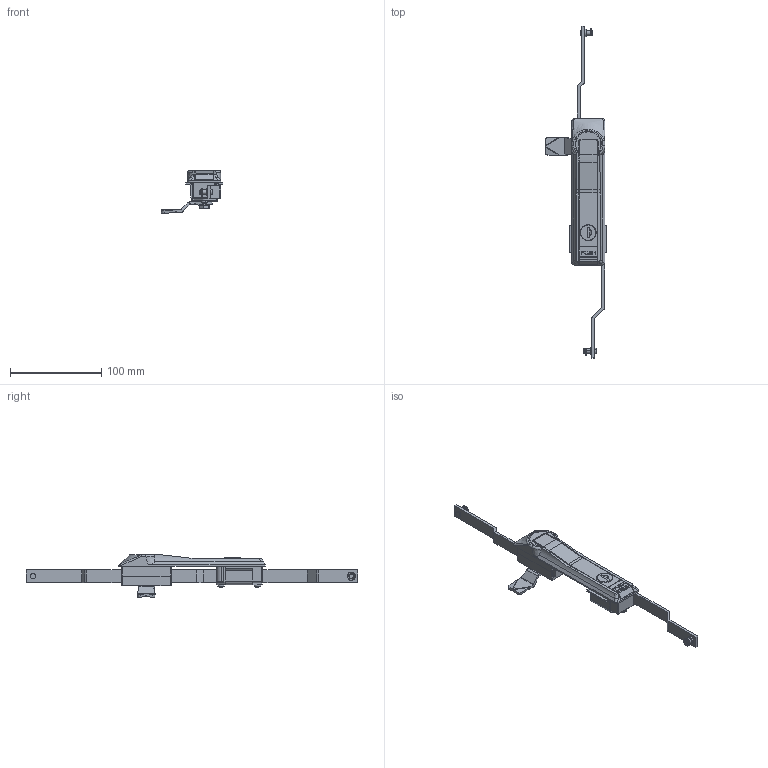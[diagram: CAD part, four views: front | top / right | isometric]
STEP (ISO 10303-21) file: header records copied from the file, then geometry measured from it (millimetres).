
FILE_DESCRIPTION (( 'STEP AP214' ), '1' );
FILE_NAME ('RS160-M.STEP', '2016-09-07T12:02:05', ( '' ), ( '' ), 'SwSTEP 2.0', 'SolidWorks 2015', '' );
FILE_SCHEMA (( 'AUTOMOTIVE_DESIGN' ));
Length unit declared in the file: millimetre
Products named in the file (17): RS160-M; jezyk 001_1; KLAMKA 001_1; 111_1; 1333_Domy挈na_3_1; napis 001_1; blaszka 001_1; ADAPTER Rw 400_Default_1; MZ2_3_1_1; 1C.MZ1.02.00.00_3_1; Zabezpieczenie_Domy挈na_3_1; 1C.MZ1.01.00.00_frezowanie fi22_3_1; 1C.MZ2.04.01.00_Domy挈na_3_1; 1C.MZ2.03.01.00_Domy挈na_3_1; 1C.MZ1.05.02.00_Domy挈na_3_1; îruba M6x10 001_1; wkret 001_1
Assembly tree (20 placements, depth 3):
  RS160-M
    wkret 001_1  x2
    îruba M6x10 001_1
    MZ2_3_1_1
      1C.MZ1.05.02.00_Domy挈na_3_1  x2
      1C.MZ2.03.01.00_Domy挈na_3_1
      1C.MZ2.04.01.00_Domy挈na_3_1
      1C.MZ1.01.00.00_frezowanie fi22_3_1  x2
      Zabezpieczenie_Domy挈na_3_1  x2
      1C.MZ1.02.00.00_3_1
    ADAPTER Rw 400_Default_1
    blaszka 001_1
    napis 001_1
    1333_Domy挈na_3_1
    111_1
    KLAMKA 001_1
    jezyk 001_1
Bounding box: 67.41 x 363.45 x 47.04 mm (x, y, z)
Volume: 110651.7 mm3; surface area: 70107.5 mm2
Topology: 19 solids, 20 shells, 1039 faces, 2727 edges, 1746 vertices
Faces by surface type: plane 481, cylinder 345, bspline 137, cone 47, sphere 16, torus 13
Entity records: 44468 total; most frequent: CARTESIAN_POINT 14522, ORIENTED_EDGE 4344, DIRECTION 3940, EDGE_CURVE 2172, VERTEX_POINT 1386, AXIS2_PLACEMENT_3D 1353, VECTOR 1234, LINE 1234
